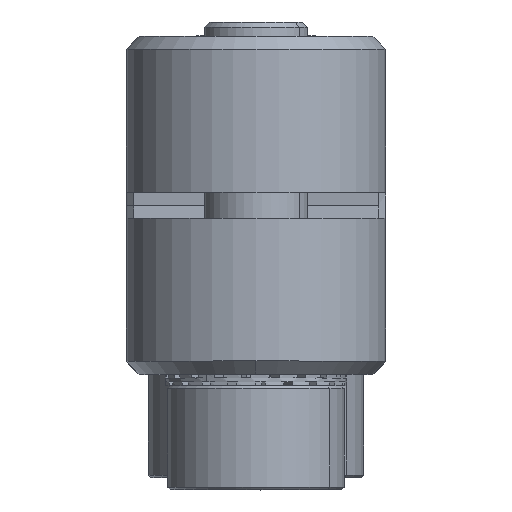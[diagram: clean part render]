
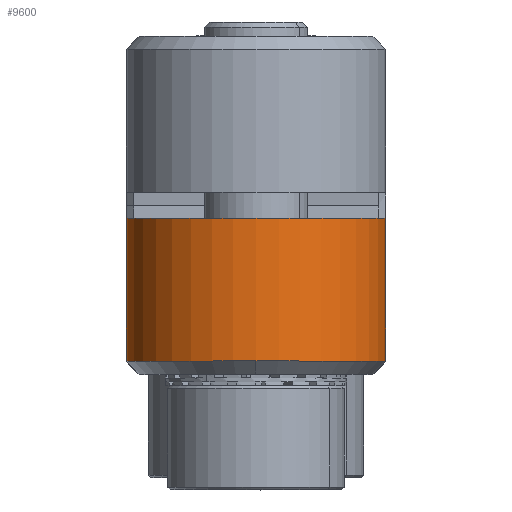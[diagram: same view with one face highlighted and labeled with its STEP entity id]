
A CAD part, top view. The second image highlights one B-rep face of the part: STEP entity #9600.
In plain terms, the highlighted cylindrical face has radius 5 mm (diameter 10 mm), a partial arc.
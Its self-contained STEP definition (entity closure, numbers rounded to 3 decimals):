
#157 = ORIENTED_EDGE ( 'NONE', *, *, #3777, .F. ) ;
#754 = CIRCLE ( 'NONE', #5344, 5. ) ;
#3313 = EDGE_CURVE ( 'NONE', #14586, #12465, #13938, .T. ) ;
#3569 = DIRECTION ( 'NONE',  ( 0., -1., 0. ) ) ;
#3602 = DIRECTION ( 'NONE',  ( 0., 1., 0. ) ) ;
#3639 = CIRCLE ( 'NONE', #6297, 5. ) ;
#3757 = VERTEX_POINT ( 'NONE', #4957 ) ;
#3761 = CARTESIAN_POINT ( 'NONE',  ( 22.537, 41.741, 5. ) ) ;
#3777 = EDGE_CURVE ( 'NONE', #7296, #14586, #6289, .T. ) ;
#4512 = CARTESIAN_POINT ( 'NONE',  ( 22.537, 44.491, 5. ) ) ;
#4598 = DIRECTION ( 'NONE',  ( 0., 1., 0. ) ) ;
#4661 = LINE ( 'NONE', #3761, #12179 ) ;
#4957 = CARTESIAN_POINT ( 'NONE',  ( 22.537, 38.991, 5. ) ) ;
#4992 = VERTEX_POINT ( 'NONE', #4512 ) ;
#5087 = EDGE_LOOP ( 'NONE', ( #12282, #9152, #10654, #9622, #157 ) ) ;
#5344 = AXIS2_PLACEMENT_3D ( 'NONE', #9143, #4598, #11488 ) ;
#6082 = DIRECTION ( 'NONE',  ( 0., 1., 0. ) ) ;
#6154 = CARTESIAN_POINT ( 'NONE',  ( 27.537, 44.491, 0. ) ) ;
#6289 = CIRCLE ( 'NONE', #8215, 5. ) ;
#6297 = AXIS2_PLACEMENT_3D ( 'NONE', #11882, #9543, #9684 ) ;
#7148 = CARTESIAN_POINT ( 'NONE',  ( 22.537, 44.491, 0. ) ) ;
#7296 = VERTEX_POINT ( 'NONE', #6154 ) ;
#7738 = VECTOR ( 'NONE', #3569, 1000. ) ;
#8075 = EDGE_CURVE ( 'NONE', #3757, #12465, #754, .T. ) ;
#8215 = AXIS2_PLACEMENT_3D ( 'NONE', #7148, #6082, #11906 ) ;
#8439 = DIRECTION ( 'NONE',  ( 0., 1., 0. ) ) ;
#8830 = EDGE_CURVE ( 'NONE', #4992, #7296, #3639, .T. ) ;
#8872 = CARTESIAN_POINT ( 'NONE',  ( 22.537, 44.491, -5. ) ) ;
#9143 = CARTESIAN_POINT ( 'NONE',  ( 22.537, 38.991, 0. ) ) ;
#9152 = ORIENTED_EDGE ( 'NONE', *, *, #12568, .F. ) ;
#9420 = DIRECTION ( 'NONE',  ( 0., 0., 1. ) ) ;
#9543 = DIRECTION ( 'NONE',  ( 0., 1., 0. ) ) ;
#9577 = CARTESIAN_POINT ( 'NONE',  ( 22.537, 38.991, 0. ) ) ;
#9600 = ADVANCED_FACE ( 'NONE', ( #13146 ), #11928, .T. ) ;
#9622 = ORIENTED_EDGE ( 'NONE', *, *, #3313, .F. ) ;
#9684 = DIRECTION ( 'NONE',  ( 0., 0., 1. ) ) ;
#10654 = ORIENTED_EDGE ( 'NONE', *, *, #8075, .T. ) ;
#11488 = DIRECTION ( 'NONE',  ( 0., 0., 1. ) ) ;
#11882 = CARTESIAN_POINT ( 'NONE',  ( 22.537, 44.491, 0. ) ) ;
#11906 = DIRECTION ( 'NONE',  ( 0., 0., 1. ) ) ;
#11928 = CYLINDRICAL_SURFACE ( 'NONE', #14815, 5. ) ;
#12179 = VECTOR ( 'NONE', #3602, 1000. ) ;
#12282 = ORIENTED_EDGE ( 'NONE', *, *, #8830, .F. ) ;
#12465 = VERTEX_POINT ( 'NONE', #14721 ) ;
#12568 = EDGE_CURVE ( 'NONE', #3757, #4992, #4661, .T. ) ;
#13146 = FACE_OUTER_BOUND ( 'NONE', #5087, .T. ) ;
#13938 = LINE ( 'NONE', #14008, #7738 ) ;
#14008 = CARTESIAN_POINT ( 'NONE',  ( 22.537, 38.491, -5. ) ) ;
#14586 = VERTEX_POINT ( 'NONE', #8872 ) ;
#14721 = CARTESIAN_POINT ( 'NONE',  ( 22.537, 38.991, -5. ) ) ;
#14815 = AXIS2_PLACEMENT_3D ( 'NONE', #9577, #8439, #9420 ) ;
